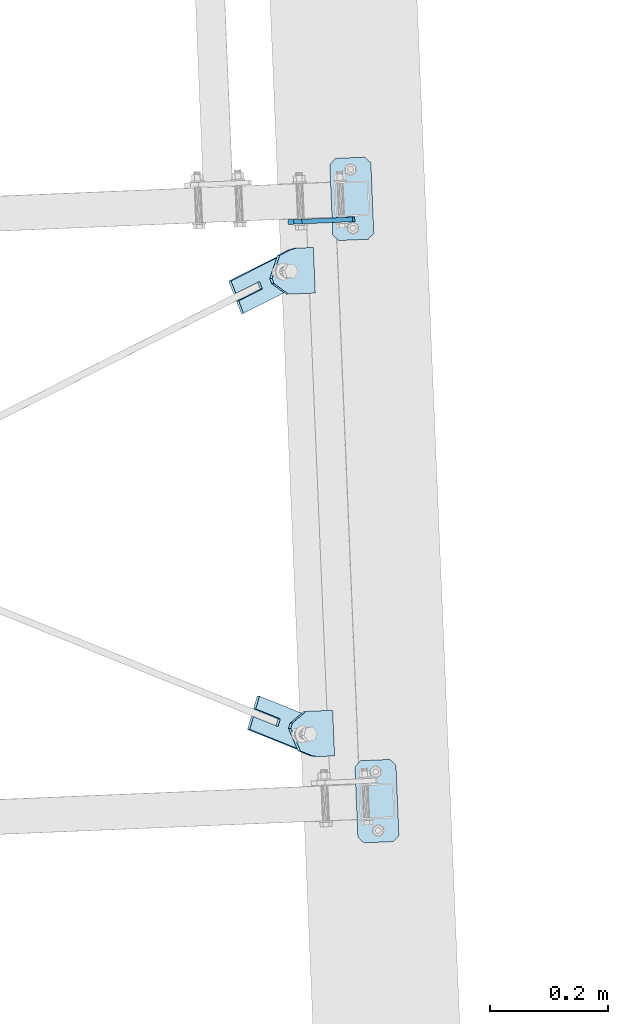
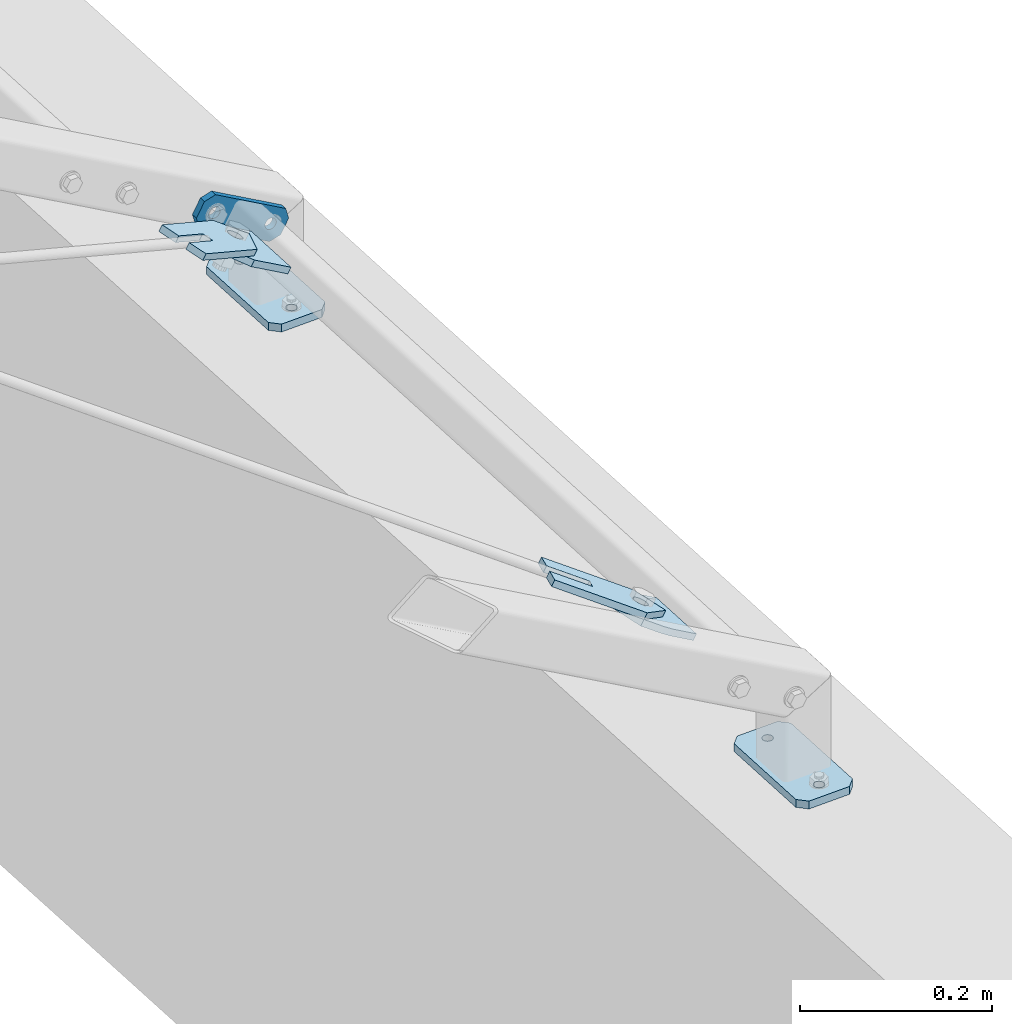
# One storey, part 50 of 288: 7 plates, 34 openings.
"""IFC2X3 building model written with IfcOpenShell, lengths in millimetres."""

import ifcopenshell
import ifcopenshell.guid

model = None  # the IFC model being written
_history = None  # IfcOwnerHistory: only IFC2X3 demands one
_inside = {}  # id of a spatial element -> (the spatial element, [elements in it])
_under = {}  # id of a project, library or spatial element -> (it, [spatial elements below it])
_declared = {}  # id of a project -> (the project, [libraries it declares])
_typed = {}  # id of a type object -> (the type object, [elements of that type])
_made_of = {}  # id of a material, layer set ... -> (it, [elements and type objects made of it])


def new_model(schema):
    """Start an empty IFC model of exactly this schema.

    Asked for "IFC4X3", IfcOpenShell would pick the latest addendum, in which some entities
    have other attributes; the version numbers below select the first issue.
    IFC2X3 requires an IfcOwnerHistory on every rooted entity: one is made here for all.
    """
    global model, _history
    if schema == "IFC4X3":
        model = ifcopenshell.file(schema_version=(4, 3, 0, 0))
    else:
        model = ifcopenshell.file(schema=schema)
    _inside.clear()
    _under.clear()
    _declared.clear()
    _typed.clear()
    _made_of.clear()
    _history = None
    if model.schema == "IFC2X3":
        org = make("IfcOrganization", Name="unknown")
        user = make(
            "IfcPersonAndOrganization",
            ThePerson=make("IfcPerson", FamilyName="unknown"),
            TheOrganization=org,
        )
        app = make(
            "IfcApplication",
            ApplicationDeveloper=org,
            Version="unknown",
            ApplicationFullName="unknown",
            ApplicationIdentifier="unknown",
        )
        _history = make(
            "IfcOwnerHistory",
            OwningUser=user,
            OwningApplication=app,
            ChangeAction="ADDED",
            CreationDate=0,
        )
    return model


def make(cls, **values):
    """One entity of the class cls with the attributes given. An attribute that is None is left unset."""
    return model.create_entity(
        cls, **{name: value for name, value in values.items() if value is not None}
    )


def entity(cls, *values):
    """Any entity or typed value of the class cls, its attributes in the order of the schema. None: left unset."""
    e = model.create_entity(cls)
    for i, value in enumerate(values):
        if value is not None:
            e[i] = value
    return e


def rooted(cls, **values):
    """An entity with a GlobalId (a new one), such as an element, a storey or a relation."""
    return make(cls, GlobalId=ifcopenshell.guid.new(), OwnerHistory=_history, **values)


def si_unit(unit_type, name, prefix=None):
    """IfcSIUnit, for example si_unit("LENGTHUNIT", "METRE", prefix="MILLI")."""
    return make("IfcSIUnit", UnitType=unit_type, Prefix=prefix, Name=name)


def converted_unit(unit_type, name, factor, base, dimensions=None, offset=None):
    """IfcConversionBasedUnit, such as the inch: factor (a typed value) times the base unit."""
    return make(
        "IfcConversionBasedUnit"
        if offset is None
        else "IfcConversionBasedUnitWithOffset",
        ConversionOffset=offset,
        Dimensions=None
        if dimensions is None
        else entity("IfcDimensionalExponents", *dimensions),
        UnitType=unit_type,
        Name=name,
        ConversionFactor=make(
            "IfcMeasureWithUnit", ValueComponent=factor, UnitComponent=base
        ),
    )


def assignment(units):
    """IfcUnitAssignment: the units of a project."""
    return None if units is None else make("IfcUnitAssignment", Units=units)


def point(xyz):
    """IfcCartesianPoint."""
    return None if xyz is None else make("IfcCartesianPoint", Coordinates=xyz)


def direction(xyz):
    """IfcDirection."""
    return None if xyz is None else make("IfcDirection", DirectionRatios=xyz)


def frame(location, z_axis=None, x_axis=None):
    """IfcAxis2Placement3D, a coordinate frame: its origin and axes. An axis left out is left unset."""
    return make(
        "IfcAxis2Placement3D",
        Location=point(location),
        Axis=direction(z_axis),
        RefDirection=direction(x_axis),
    )


def frame_2d(location, x_axis=None):
    """IfcAxis2Placement2D, a coordinate frame in the plane: its origin and x axis."""
    return make(
        "IfcAxis2Placement2D", Location=point(location), RefDirection=direction(x_axis)
    )


def origin():
    """The frame at (0, 0, 0) with its axes left unset."""
    return frame((0.0, 0.0, 0.0))


def origin_with_axes():
    """The frame at (0, 0, 0) with the z axis (0, 0, 1) and the x axis (1, 0, 0) written out."""
    return frame((0.0, 0.0, 0.0), z_axis=(0.0, 0.0, 1.0), x_axis=(1.0, 0.0, 0.0))


def origin_2d_with_axis():
    """The frame at (0, 0) in the plane with the x axis (1, 0) written out."""
    return frame_2d((0.0, 0.0), x_axis=(1.0, 0.0))


def place(relative_to, where):
    """IfcLocalPlacement: puts the frame where relative to a parent placement (None: the world)."""
    return make(
        "IfcLocalPlacement", PlacementRelTo=relative_to, RelativePlacement=where
    )


def context(
    kind, dimensions, precision=None, world=None, true_north=None, identifier=None
):
    """IfcGeometricRepresentationContext, for example the 3D "Model" context."""
    return make(
        "IfcGeometricRepresentationContext",
        ContextIdentifier=identifier,
        ContextType=kind,
        CoordinateSpaceDimension=dimensions,
        Precision=precision,
        WorldCoordinateSystem=world,
        TrueNorth=true_north,
    )


def project(units=None, contexts=None):
    """IfcProject with its units and contexts."""
    return rooted(
        "IfcProject",
        Name="project",
        RepresentationContexts=contexts,
        UnitsInContext=assignment(units),
    )


def spatial(cls, under=None, at=None, **own):
    """A site, building, storey or space (cls), placed at a placement, below another one or the project."""
    s = rooted(cls, ObjectPlacement=at, **own)
    if under is not None:
        _under.setdefault(under.id(), (under, []))[1].append(s)
    return s


def polyline(points):
    """IfcPolyline through the points."""
    return make("IfcPolyline", Points=[point(p) for p in points])


def circle_curve(where, radius):
    """IfcCircle in the frame where."""
    return make("IfcCircle", Position=where, Radius=radius)


def line_curve(start, along, magnitude):
    """IfcLine from a point along a vector."""
    return make(
        "IfcLine",
        Pnt=point(start),
        Dir=make("IfcVector", Orientation=direction(along), Magnitude=magnitude),
    )


def trimmed(basis, trim1, trim2, sense, master):
    """IfcTrimmedCurve: the piece of a basis curve between two trims."""
    return make(
        "IfcTrimmedCurve",
        BasisCurve=basis,
        Trim1=trim1,
        Trim2=trim2,
        SenseAgreement=sense,
        MasterRepresentation=master,
    )


def segment(curve, same_sense, transition):
    """IfcCompositeCurveSegment."""
    return make(
        "IfcCompositeCurveSegment",
        Transition=transition,
        SameSense=same_sense,
        ParentCurve=curve,
    )


def composite_curve(segments, self_intersect=None):
    """IfcCompositeCurve: segments joined end to end."""
    return make("IfcCompositeCurve", Segments=segments, SelfIntersect=self_intersect)


def profile(cls, at=None, kind="AREA", **sizes):
    """A parametric profile (cls). Its sizes go by their IFC names, for example OverallWidth=200.0."""
    return make(cls, ProfileType=kind, Position=at, **sizes)


def circle(**sizes):
    """IfcCircleProfileDef."""
    return profile("IfcCircleProfileDef", **sizes)


def outline(outer, holes=None, kind="AREA"):
    """IfcArbitraryClosedProfileDef: a profile drawn as a closed curve; with holes, ...WithVoids."""
    if holes is None:
        return make("IfcArbitraryClosedProfileDef", ProfileType=kind, OuterCurve=outer)
    return make(
        "IfcArbitraryProfileDefWithVoids",
        ProfileType=kind,
        OuterCurve=outer,
        InnerCurves=holes,
    )


def extrude(swept, where, along, depth):
    """IfcExtrudedAreaSolid: the profile swept, set in the frame where, extruded along a direction by depth."""
    return make(
        "IfcExtrudedAreaSolid",
        SweptArea=swept,
        Position=where,
        ExtrudedDirection=direction(along),
        Depth=depth,
    )


def shape(context_of_items, identifier, shape_type, items):
    """IfcShapeRepresentation: the items that make up one representation, for example the "Body"."""
    return make(
        "IfcShapeRepresentation",
        ContextOfItems=context_of_items,
        RepresentationIdentifier=identifier,
        RepresentationType=shape_type,
        Items=items,
    )


def material(Name=None, Category=None):
    """IfcMaterial."""
    return make("IfcMaterial", Name=Name, Category=Category)


def layer(
    of_material, thickness, ventilated=None, Name=None, Category=None, Priority=None
):
    """IfcMaterialLayer: one layer of a wall or slab, of a material (None: an air gap)."""
    return make(
        "IfcMaterialLayer",
        Material=of_material,
        LayerThickness=thickness,
        IsVentilated=ventilated,
        Name=Name,
        Category=Category,
        Priority=Priority,
    )


def layer_set(layers, Name=None):
    """IfcMaterialLayerSet."""
    return make("IfcMaterialLayerSet", MaterialLayers=layers, LayerSetName=Name)


def made_of(thing, what):
    """Note that an element or type object is made of a material, layer set ...; save() writes the relation."""
    if what is not None:
        _made_of.setdefault(what.id(), (what, []))[1].append(thing)
    return thing


def element(
    cls,
    number,
    at=None,
    inside=None,
    cuts=None,
    type_object=None,
    material=None,
    context=None,
    identifier="Body",
    shape_type=None,
    held_by="IfcProductDefinitionShape",
    body=None,
    shapes=None,
    **own,
):
    """One element of the class cls, such as IfcWall. Its Tag is "e" and its number.

    at: its placement. inside: the storey or other place that contains it. cuts: it is an
    opening in that element (IfcRelVoidsElement). A single representation is given by context,
    identifier, shape_type and body (its items); several are given by shapes. held_by: the class
    of the entity that holds the representations. save() writes the other relations.
    """
    e = rooted(cls, Tag="e%d" % number, ObjectPlacement=at, **own)
    if body is not None:
        shapes = [shape(context, identifier, shape_type, body)]
    if shapes is not None:
        e.Representation = make(held_by, Representations=shapes)
    if inside is not None:
        _inside.setdefault(inside.id(), (inside, []))[1].append(e)
    if cuts is not None:
        rooted(
            "IfcRelVoidsElement", RelatingBuildingElement=cuts, RelatedOpeningElement=e
        )
    if type_object is not None:
        _typed.setdefault(type_object.id(), (type_object, []))[1].append(e)
    return made_of(e, material)


def aggregate(whole, parts):
    """IfcRelAggregates: a whole, such as a stair, and the parts it consists of."""
    return rooted("IfcRelAggregates", RelatingObject=whole, RelatedObjects=parts)


def save(model, path):
    """Write the relations noted so far, then the file.

    IfcRelAggregates (storeys below a building ...), IfcRelContainedInSpatialStructure (elements
    in a storey), IfcRelDefinesByType, IfcRelAssociatesMaterial and IfcRelDeclares: one each for
    every whole, place, type object, material and project.
    """
    for whole, parts in _under.values():
        aggregate(whole, parts)
    for where, things in _inside.values():
        rooted(
            "IfcRelContainedInSpatialStructure",
            RelatedElements=things,
            RelatingStructure=where,
        )
    for kind, things in _typed.values():
        rooted("IfcRelDefinesByType", RelatedObjects=things, RelatingType=kind)
    for what, things in _made_of.values():
        rooted("IfcRelAssociatesMaterial", RelatedObjects=things, RelatingMaterial=what)
    for by, libraries in _declared.values():
        rooted("IfcRelDeclares", RelatingContext=by, RelatedDefinitions=libraries)
    model.write(path)


model = new_model("IFC2X3")

# Units and contexts
model_context = context("Model", 3, precision=1e-09, world=origin_with_axes())
ifc_project = project(units=[si_unit("LENGTHUNIT", "METRE", prefix="MILLI"), si_unit("AREAUNIT", "SQUARE_METRE"), si_unit("VOLUMEUNIT", "CUBIC_METRE"), converted_unit("PLANEANGLEUNIT", "DEGREE", entity("IfcPlaneAngleMeasure", 0.01745329), si_unit("PLANEANGLEUNIT", "RADIAN"), dimensions=[0, 0, 0, 0, 0, 0, 0])], contexts=[model_context])

# Site, building, storey
site_placement = place(None, origin_with_axes())
site = spatial("IfcSite", under=ifc_project, at=site_placement, Name="Remont ?wietlik?w nad MC w NCPP w Opolu", CompositionType="ELEMENT")
building_placement = place(site_placement, origin_with_axes())
building = spatial("IfcBuilding", under=site, at=building_placement, Name="Konstrukcja 1", CompositionType="ELEMENT")
storey_placement = place(building_placement, origin_with_axes())
storey = spatial("IfcBuildingStorey", under=building, at=storey_placement, Name="Default Storey", CompositionType="ELEMENT", Elevation=0.0)

# Plate, openings
ifc_material = material(Name="S235")
ifc_layer_1 = layer(ifc_material, 8.0)
ifc_layer_set_1 = layer_set([ifc_layer_1], Name="S235")
plate_1_placement = place(None, frame((1298.528527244, 11326.746724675, 149.81493075), z_axis=(-0.041662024, 0.999131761, 1.7472e-05), x_axis=(0.499566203, 0.020815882, 0.866025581)))
plate_1 = element("IfcPlate", 1, at=plate_1_placement, inside=storey, material=ifc_layer_set_1, Name="-", ObjectType="-", context=model_context, shape_type="SweptSolid", body=[
    extrude(outline(polyline([(0.0, 0.0), (40.0, 0.0), (40.0, 120.0), (0.0, 120.0), (0.0, 0.0)])), origin_with_axes(), (0.0, 0.0, 1.0), 8.0),
])
opening_1_placement = place(plate_1_placement, frame((0.0, 0.0, -0.01), z_axis=(0.0, 0.0, 1.0), x_axis=(1.0, 0.0, 0.0)))
element("IfcOpeningElement", 2, at=opening_1_placement, cuts=plate_1, ObjectType="Opening", context=model_context, shape_type="SweptSolid", body=[
    extrude(outline(composite_curve([segment(trimmed(line_curve((40.0, 0.0), (0.0, 1.0), 10.0), [point((40.0, 0.0))], [point((40.0, 10.0))], True, "CARTESIAN"), True, "CONTINUOUS"), segment(trimmed(circle_curve(frame_2d((30.0, 10.0), x_axis=(-1.0, 0.0)), 10.0), [point((40.0, 10.0))], [point((30.0, 0.0))], False, "CARTESIAN"), True, "CONTINUOUS"), segment(trimmed(line_curve((30.0, 0.0), (1.0, 0.0), 10.0), [point((30.0, 0.0))], [point((40.0, 0.0))], True, "CARTESIAN"), True, "CONTINUOUS")], self_intersect=False)), origin(), (0.0, 0.0, 1.0), 8.02),
])
opening_2_placement = place(plate_1_placement, frame((0.0, 0.0, -0.01), z_axis=(0.0, 0.0, 1.0), x_axis=(1.0, 0.0, 0.0)))
element("IfcOpeningElement", 3, at=opening_2_placement, cuts=plate_1, ObjectType="Opening", context=model_context, shape_type="SweptSolid", body=[
    extrude(outline(composite_curve([segment(trimmed(line_curve((0.0, 0.0), (1.0, 0.0), 10.0), [point((0.0, 0.0))], [point((10.0, 0.0))], True, "CARTESIAN"), True, "CONTINUOUS"), segment(trimmed(circle_curve(frame_2d((10.0, 10.0), x_axis=(-1.0, 0.0)), 10.0), [point((10.0, 0.0))], [point((0.0, 10.0))], False, "CARTESIAN"), True, "CONTINUOUS"), segment(trimmed(line_curve((0.0, 10.0), (0.0, -1.0), 10.0), [point((0.0, 10.0))], [point((0.0, 0.0))], True, "CARTESIAN"), True, "CONTINUOUS")], self_intersect=False)), origin(), (0.0, 0.0, 1.0), 8.02),
])
opening_3_placement = place(plate_1_placement, frame((0.0, 0.0, -0.01), z_axis=(0.0, 0.0, 1.0), x_axis=(1.0, 0.0, 0.0)))
element("IfcOpeningElement", 4, at=opening_3_placement, cuts=plate_1, ObjectType="Opening", context=model_context, shape_type="SweptSolid", body=[
    extrude(outline(composite_curve([segment(trimmed(line_curve((40.0, 120.0), (-1.0, 0.0), 10.0), [point((40.0, 120.0))], [point((30.0, 120.0))], True, "CARTESIAN"), True, "CONTINUOUS"), segment(trimmed(circle_curve(frame_2d((30.0, 110.0), x_axis=(-1.0, 0.0)), 10.0), [point((30.0, 120.0))], [point((40.0, 110.0))], False, "CARTESIAN"), True, "CONTINUOUS"), segment(trimmed(line_curve((40.0, 110.0), (0.0, 1.0), 10.0), [point((40.0, 110.0))], [point((40.0, 120.0))], True, "CARTESIAN"), True, "CONTINUOUS")], self_intersect=False)), origin(), (0.0, 0.0, 1.0), 8.02),
])
opening_4_placement = place(plate_1_placement, frame((0.0, 0.0, -0.01), z_axis=(0.0, 0.0, 1.0), x_axis=(1.0, 0.0, 0.0)))
element("IfcOpeningElement", 5, at=opening_4_placement, cuts=plate_1, ObjectType="Opening", context=model_context, shape_type="SweptSolid", body=[
    extrude(outline(composite_curve([segment(trimmed(line_curve((0.0, 120.0), (0.0, -1.0), 10.0), [point((0.0, 120.0))], [point((0.0, 110.0))], True, "CARTESIAN"), True, "CONTINUOUS"), segment(trimmed(circle_curve(frame_2d((10.0, 110.0), x_axis=(-1.0, 0.0)), 10.0), [point((0.0, 110.0))], [point((10.0, 120.0))], False, "CARTESIAN"), True, "CONTINUOUS"), segment(trimmed(line_curve((10.0, 120.0), (-1.0, 0.0), 10.0), [point((10.0, 120.0))], [point((0.0, 120.0))], True, "CARTESIAN"), True, "CONTINUOUS")], self_intersect=False)), origin(), (0.0, 0.0, 1.0), 8.02),
])
opening_5_placement = place(plate_1_placement, frame((19.99982953, 27.001003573, 8.499903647), z_axis=(-2.0054e-05, 4.2e-07, 1.0), x_axis=(1.0, 0.0, 2.0054e-05)))
element("IfcOpeningElement", 6, at=opening_5_placement, cuts=plate_1, ObjectType="Opening", context=model_context, shape_type="SweptSolid", body=[
    extrude(circle(Radius=7.001, at=frame_2d((-4e-09, -7.001), x_axis=(1.0, 0.0))), origin(), (0.0, 0.0, -1.0), 9.000033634),
])
opening_6_placement = place(plate_1_placement, frame((19.999829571, 107.001003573, 8.499870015), z_axis=(-2.0054e-05, 4.2e-07, 1.0), x_axis=(1.0, 0.0, 2.0054e-05)))
element("IfcOpeningElement", 7, at=opening_6_placement, cuts=plate_1, ObjectType="Opening", context=model_context, shape_type="SweptSolid", body=[
    extrude(circle(Radius=7.001, at=frame_2d((-4e-09, -7.001), x_axis=(1.0, 0.0))), origin(), (0.0, 0.0, -1.0), 9.000033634),
])

ifc_layer_2 = layer(ifc_material, 10.0)
ifc_layer_set_2 = layer_set([ifc_layer_2], Name="S235")
plate_2_placement = place(None, frame((1374.265429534, 11439.000886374, 10.000000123), z_axis=(0.0, 0.0, -1.0), x_axis=(0.999131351, 0.041671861, 0.0)))
plate_2 = element("IfcPlate", 8, at=plate_2_placement, inside=storey, material=ifc_layer_set_2, Name="Baseplate", ObjectType="Baseplate", context=model_context, shape_type="SweptSolid", body=[
    extrude(outline(polyline([(0.0, 0.0), (70.0, 0.0), (70.0, 140.0), (0.0, 140.0), (0.0, 0.0)])), origin_with_axes(), (0.0, 0.0, 1.0), 10.0),
])
opening_7_placement = place(plate_2_placement, frame((0.0, 0.0, -0.01), z_axis=(0.0, 0.0, 1.0), x_axis=(1.0, 0.0, 0.0)))
element("IfcOpeningElement", 9, at=opening_7_placement, cuts=plate_2, ObjectType="Opening", context=model_context, shape_type="SweptSolid", body=[
    extrude(outline(composite_curve([segment(trimmed(line_curve((0.0, 140.0), (0.0, -1.0), 10.0), [point((0.0, 140.0))], [point((0.0, 130.0))], True, "CARTESIAN"), True, "CONTINUOUS"), segment(trimmed(circle_curve(frame_2d((10.0, 130.0), x_axis=(-1.0, 0.0)), 10.0), [point((0.0, 130.0))], [point((10.0, 140.0))], False, "CARTESIAN"), True, "CONTINUOUS"), segment(trimmed(line_curve((10.0, 140.0), (-1.0, 0.0), 10.0), [point((10.0, 140.0))], [point((0.0, 140.0))], True, "CARTESIAN"), True, "CONTINUOUS")], self_intersect=False)), origin(), (0.0, 0.0, 1.0), 10.02),
])
opening_8_placement = place(plate_2_placement, frame((0.0, 0.0, -0.01), z_axis=(0.0, 0.0, 1.0), x_axis=(1.0, 0.0, 0.0)))
element("IfcOpeningElement", 10, at=opening_8_placement, cuts=plate_2, ObjectType="Opening", context=model_context, shape_type="SweptSolid", body=[
    extrude(outline(composite_curve([segment(trimmed(line_curve((70.0, 140.0), (-1.0, 0.0), 10.0), [point((70.0, 140.0))], [point((60.0, 140.0))], True, "CARTESIAN"), True, "CONTINUOUS"), segment(trimmed(circle_curve(frame_2d((60.0, 130.0), x_axis=(-1.0, 0.0)), 10.0), [point((60.0, 140.0))], [point((70.0, 130.0))], False, "CARTESIAN"), True, "CONTINUOUS"), segment(trimmed(line_curve((70.0, 130.0), (0.0, 1.0), 10.0), [point((70.0, 130.0))], [point((70.0, 140.0))], True, "CARTESIAN"), True, "CONTINUOUS")], self_intersect=False)), origin(), (0.0, 0.0, 1.0), 10.02),
])
opening_9_placement = place(plate_2_placement, frame((0.0, 0.0, -0.01), z_axis=(0.0, 0.0, 1.0), x_axis=(1.0, 0.0, 0.0)))
element("IfcOpeningElement", 11, at=opening_9_placement, cuts=plate_2, ObjectType="Opening", context=model_context, shape_type="SweptSolid", body=[
    extrude(outline(composite_curve([segment(trimmed(line_curve((0.0, 0.0), (1.0, 0.0), 10.0), [point((0.0, 0.0))], [point((10.0, 0.0))], True, "CARTESIAN"), True, "CONTINUOUS"), segment(trimmed(circle_curve(frame_2d((10.0, 10.0), x_axis=(-1.0, 0.0)), 10.0), [point((10.0, 0.0))], [point((0.0, 10.0))], False, "CARTESIAN"), True, "CONTINUOUS"), segment(trimmed(line_curve((0.0, 10.0), (0.0, -1.0), 10.0), [point((0.0, 10.0))], [point((0.0, 0.0))], True, "CARTESIAN"), True, "CONTINUOUS")], self_intersect=False)), origin(), (0.0, 0.0, 1.0), 10.02),
])
opening_10_placement = place(plate_2_placement, frame((0.0, 0.0, -0.01), z_axis=(0.0, 0.0, 1.0), x_axis=(1.0, 0.0, 0.0)))
element("IfcOpeningElement", 12, at=opening_10_placement, cuts=plate_2, ObjectType="Opening", context=model_context, shape_type="SweptSolid", body=[
    extrude(outline(composite_curve([segment(trimmed(line_curve((70.0, 0.0), (0.0, 1.0), 10.0), [point((70.0, 0.0))], [point((70.0, 10.0))], True, "CARTESIAN"), True, "CONTINUOUS"), segment(trimmed(circle_curve(frame_2d((60.0, 10.0), x_axis=(-1.0, 0.0)), 10.0), [point((70.0, 10.0))], [point((60.0, 0.0))], False, "CARTESIAN"), True, "CONTINUOUS"), segment(trimmed(line_curve((60.0, 0.0), (1.0, 0.0), 10.0), [point((60.0, 0.0))], [point((70.0, 0.0))], True, "CARTESIAN"), True, "CONTINUOUS")], self_intersect=False)), origin(), (0.0, 0.0, 1.0), 10.02),
])
opening_11_placement = place(plate_2_placement, frame((35.0, 20.0, 10.5), z_axis=(0.0, 0.0, -1.0), x_axis=(1.0, 0.0, 0.0)))
element("IfcOpeningElement", 13, at=opening_11_placement, cuts=plate_2, ObjectType="Opening", context=model_context, shape_type="SweptSolid", body=[
    extrude(circle(Radius=6.001, at=origin_2d_with_axis()), origin(), (0.0, 0.0, 1.0), 11.0),
])
opening_12_placement = place(plate_2_placement, frame((35.0, 120.0, 10.5), z_axis=(0.0, 0.0, -1.0), x_axis=(1.0, 0.0, 0.0)))
element("IfcOpeningElement", 14, at=opening_12_placement, cuts=plate_2, ObjectType="Opening", context=model_context, shape_type="SweptSolid", body=[
    extrude(circle(Radius=6.001, at=origin_2d_with_axis()), origin(), (0.0, 0.0, 1.0), 11.0),
])

plate_3_placement = place(None, frame((1417.013892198, 10414.056759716, 10.000000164), z_axis=(0.0, 0.0, -1.0), x_axis=(0.999131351, 0.041671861, 0.0)))
plate_3 = element("IfcPlate", 15, at=plate_3_placement, inside=storey, material=ifc_layer_set_2, Name="Baseplate", ObjectType="Baseplate", context=model_context, shape_type="SweptSolid", body=[
    extrude(outline(polyline([(0.0, 0.0), (70.0, 0.0), (70.0, 140.0), (0.0, 140.0), (0.0, 0.0)])), origin_with_axes(), (0.0, 0.0, 1.0), 10.0),
])
opening_13_placement = place(plate_3_placement, frame((0.0, 0.0, -0.01), z_axis=(0.0, 0.0, 1.0), x_axis=(1.0, 0.0, 0.0)))
element("IfcOpeningElement", 16, at=opening_13_placement, cuts=plate_3, ObjectType="Opening", context=model_context, shape_type="SweptSolid", body=[
    extrude(outline(composite_curve([segment(trimmed(line_curve((0.0, 140.0), (0.0, -1.0), 10.0), [point((0.0, 140.0))], [point((0.0, 130.0))], True, "CARTESIAN"), True, "CONTINUOUS"), segment(trimmed(circle_curve(frame_2d((10.0, 130.0), x_axis=(-1.0, 0.0)), 10.0), [point((0.0, 130.0))], [point((10.0, 140.0))], False, "CARTESIAN"), True, "CONTINUOUS"), segment(trimmed(line_curve((10.0, 140.0), (-1.0, 0.0), 10.0), [point((10.0, 140.0))], [point((0.0, 140.0))], True, "CARTESIAN"), True, "CONTINUOUS")], self_intersect=False)), origin(), (0.0, 0.0, 1.0), 10.02),
])
opening_14_placement = place(plate_3_placement, frame((0.0, 0.0, -0.01), z_axis=(0.0, 0.0, 1.0), x_axis=(1.0, 0.0, 0.0)))
element("IfcOpeningElement", 17, at=opening_14_placement, cuts=plate_3, ObjectType="Opening", context=model_context, shape_type="SweptSolid", body=[
    extrude(outline(composite_curve([segment(trimmed(line_curve((70.0, 140.0), (-1.0, 0.0), 10.0), [point((70.0, 140.0))], [point((60.0, 140.0))], True, "CARTESIAN"), True, "CONTINUOUS"), segment(trimmed(circle_curve(frame_2d((60.0, 130.0), x_axis=(-1.0, 0.0)), 10.0), [point((60.0, 140.0))], [point((70.0, 130.0))], False, "CARTESIAN"), True, "CONTINUOUS"), segment(trimmed(line_curve((70.0, 130.0), (0.0, 1.0), 10.0), [point((70.0, 130.0))], [point((70.0, 140.0))], True, "CARTESIAN"), True, "CONTINUOUS")], self_intersect=False)), origin(), (0.0, 0.0, 1.0), 10.02),
])
opening_15_placement = place(plate_3_placement, frame((0.0, 0.0, -0.01), z_axis=(0.0, 0.0, 1.0), x_axis=(1.0, 0.0, 0.0)))
element("IfcOpeningElement", 18, at=opening_15_placement, cuts=plate_3, ObjectType="Opening", context=model_context, shape_type="SweptSolid", body=[
    extrude(outline(composite_curve([segment(trimmed(line_curve((0.0, 0.0), (1.0, 0.0), 10.0), [point((0.0, 0.0))], [point((10.0, 0.0))], True, "CARTESIAN"), True, "CONTINUOUS"), segment(trimmed(circle_curve(frame_2d((10.0, 10.0), x_axis=(-1.0, 0.0)), 10.0), [point((10.0, 0.0))], [point((0.0, 10.0))], False, "CARTESIAN"), True, "CONTINUOUS"), segment(trimmed(line_curve((0.0, 10.0), (0.0, -1.0), 10.0), [point((0.0, 10.0))], [point((0.0, 0.0))], True, "CARTESIAN"), True, "CONTINUOUS")], self_intersect=False)), origin(), (0.0, 0.0, 1.0), 10.02),
])
opening_16_placement = place(plate_3_placement, frame((0.0, 0.0, -0.01), z_axis=(0.0, 0.0, 1.0), x_axis=(1.0, 0.0, 0.0)))
element("IfcOpeningElement", 19, at=opening_16_placement, cuts=plate_3, ObjectType="Opening", context=model_context, shape_type="SweptSolid", body=[
    extrude(outline(composite_curve([segment(trimmed(line_curve((70.0, 0.0), (0.0, 1.0), 10.0), [point((70.0, 0.0))], [point((70.0, 10.0))], True, "CARTESIAN"), True, "CONTINUOUS"), segment(trimmed(circle_curve(frame_2d((60.0, 10.0), x_axis=(-1.0, 0.0)), 10.0), [point((70.0, 10.0))], [point((60.0, 0.0))], False, "CARTESIAN"), True, "CONTINUOUS"), segment(trimmed(line_curve((60.0, 0.0), (1.0, 0.0), 10.0), [point((60.0, 0.0))], [point((70.0, 0.0))], True, "CARTESIAN"), True, "CONTINUOUS")], self_intersect=False)), origin(), (0.0, 0.0, 1.0), 10.02),
])
opening_17_placement = place(plate_3_placement, frame((35.0, 120.0, 10.5), z_axis=(0.0, 0.0, -1.0), x_axis=(1.0, 0.0, 0.0)))
element("IfcOpeningElement", 20, at=opening_17_placement, cuts=plate_3, ObjectType="Opening", context=model_context, shape_type="SweptSolid", body=[
    extrude(circle(Radius=6.001, at=origin_2d_with_axis()), origin(), (0.0, 0.0, 1.0), 11.0),
])
opening_18_placement = place(plate_3_placement, frame((35.0, 20.0, 10.5), z_axis=(0.0, 0.0, -1.0), x_axis=(1.0, 0.0, 0.0)))
element("IfcOpeningElement", 21, at=opening_18_placement, cuts=plate_3, ObjectType="Opening", context=model_context, shape_type="SweptSolid", body=[
    extrude(circle(Radius=6.001, at=origin_2d_with_axis()), origin(), (0.0, 0.0, 1.0), 11.0),
])

plate_4_placement = place(None, frame((1238.465567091, 10467.67700655, 242.278857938), z_axis=(-0.500767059, -0.020865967, -0.865330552), x_axis=(0.277016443, 0.943267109, -0.183054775)))
plate_4 = element("IfcPlate", 22, at=plate_4_placement, inside=storey, material=ifc_layer_set_1, Name="Tab_Plate#2", ObjectType="Tab_Plate#2", context=model_context, shape_type="SweptSolid", body=[
    extrude(outline(polyline([(0.0, 0.0), (60.0, 0.0), (60.0, 140.0), (0.0, 140.0), (0.0, 0.0)])), origin_with_axes(), (0.0, 0.0, 1.0), 8.0),
])
opening_19_placement = place(plate_4_placement, frame((0.0, 0.0, -0.01), z_axis=(0.0, 0.0, 1.0), x_axis=(1.0, 0.0, 0.0)))
element("IfcOpeningElement", 23, at=opening_19_placement, cuts=plate_4, ObjectType="Opening", context=model_context, shape_type="SweptSolid", body=[
    extrude(outline(composite_curve([segment(trimmed(line_curve((60.0, 140.0), (-1.0, 0.0), 30.0), [point((60.0, 140.0))], [point((30.0, 140.0))], True, "CARTESIAN"), True, "CONTINUOUS"), segment(trimmed(circle_curve(frame_2d((30.0, 110.0), x_axis=(-1.0, 0.0)), 30.0), [point((30.0, 140.0))], [point((60.0, 110.0))], False, "CARTESIAN"), True, "CONTINUOUS"), segment(trimmed(line_curve((60.0, 110.0), (0.0, 1.0), 30.0), [point((60.0, 110.0))], [point((60.0, 140.0))], True, "CARTESIAN"), True, "CONTINUOUS")], self_intersect=False)), origin(), (0.0, 0.0, 1.0), 8.02),
])
opening_20_placement = place(plate_4_placement, frame((0.0, 0.0, -0.01), z_axis=(0.0, 0.0, 1.0), x_axis=(1.0, 0.0, 0.0)))
element("IfcOpeningElement", 24, at=opening_20_placement, cuts=plate_4, ObjectType="Opening", context=model_context, shape_type="SweptSolid", body=[
    extrude(outline(composite_curve([segment(trimmed(line_curve((0.0, 140.0), (0.0, -1.0), 30.0), [point((0.0, 140.0))], [point((0.0, 110.0))], True, "CARTESIAN"), True, "CONTINUOUS"), segment(trimmed(circle_curve(frame_2d((30.0, 110.0), x_axis=(-1.0, 0.0)), 30.0), [point((0.0, 110.0))], [point((30.0, 140.0))], False, "CARTESIAN"), True, "CONTINUOUS"), segment(trimmed(line_curve((30.0, 140.0), (-1.0, 0.0), 30.0), [point((30.0, 140.0))], [point((0.0, 140.0))], True, "CARTESIAN"), True, "CONTINUOUS")], self_intersect=False)), origin(), (0.0, 0.0, 1.0), 8.02),
])
opening_21_placement = place(plate_4_placement, frame((0.0, -6e-09, 8.1), z_axis=(0.0, 0.0, -1.0), x_axis=(0.930916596, -0.365231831, 0.0)))
element("IfcOpeningElement", 25, at=opening_21_placement, cuts=plate_4, ObjectType="Opening", context=model_context, shape_type="SweptSolid", body=[
    extrude(outline(polyline([(2.782962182, -55.877644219), (15.817656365, -60.991620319), (34.445210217, -13.513012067), (21.410516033, -8.399035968), (2.782962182, -55.877644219)])), origin(), (0.0, 0.0, 1.0), 8.200000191),
])
opening_22_placement = place(plate_4_placement, frame((30.0, 110.000000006, 8.49999999), z_axis=(0.0, 0.0, -1.0), x_axis=(0.0, -1.0, 0.0)))
element("IfcOpeningElement", 26, at=opening_22_placement, cuts=plate_4, ObjectType="Opening", context=model_context, shape_type="SweptSolid", body=[
    extrude(circle(Radius=9.001, at=origin_2d_with_axis()), origin(), (0.0, 0.0, 1.0), 9.0),
])

plate_5_placement = place(None, frame((1312.678877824, 10497.428890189, 180.124132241), z_axis=(0.500767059, 0.020865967, 0.865330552), x_axis=(-0.277016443, -0.943267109, 0.183054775)))
plate_5 = element("IfcPlate", 27, at=plate_5_placement, inside=storey, material=ifc_layer_set_1, Name="Gusset#2", ObjectType="Gusset#2", context=model_context, shape_type="SweptSolid", body=[
    extrude(outline(polyline([(0.0, 0.0), (60.0, 0.0), (60.0, 60.0), (45.794653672, 96.203407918), (-26.601822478, 67.796772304), (0.0, 0.0)])), origin_with_axes(), (0.0, 0.0, 1.0), 8.0),
])
opening_23_placement = place(plate_5_placement, frame((30.0, 30.000000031, -0.499999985), z_axis=(0.0, 0.0, 1.0), x_axis=(0.0, -1.0, 0.0)))
element("IfcOpeningElement", 28, at=opening_23_placement, cuts=plate_5, ObjectType="Opening", context=model_context, shape_type="SweptSolid", body=[
    extrude(circle(Radius=9.001, at=origin_2d_with_axis()), origin(), (0.0, 0.0, 1.0), 9.0),
])
opening_24_placement = place(plate_5_placement, frame((0.0, 0.0, -0.01), z_axis=(0.0, 0.0, 1.0), x_axis=(1.0, 0.0, 0.0)))
element("IfcOpeningElement", 29, at=opening_24_placement, cuts=plate_5, ObjectType="Opening", context=model_context, shape_type="SweptSolid", body=[
    extrude(outline(composite_curve([segment(trimmed(line_curve((60.0, 0.0), (0.0, 1.0), 30.0), [point((60.0, 0.0))], [point((60.0, 30.0))], True, "CARTESIAN"), True, "CONTINUOUS"), segment(trimmed(circle_curve(frame_2d((30.0, 30.0), x_axis=(-1.0, 0.0)), 30.0), [point((60.0, 30.0))], [point((30.0, 0.0))], False, "CARTESIAN"), True, "CONTINUOUS"), segment(trimmed(line_curve((30.0, 0.0), (1.0, 0.0), 30.0), [point((30.0, 0.0))], [point((60.0, 0.0))], True, "CARTESIAN"), True, "CONTINUOUS")], self_intersect=False)), origin(), (0.0, 0.0, 1.0), 8.02),
])
opening_25_placement = place(plate_5_placement, frame((0.0, 0.0, -0.01), z_axis=(0.0, 0.0, 1.0), x_axis=(1.0, 0.0, 0.0)))
element("IfcOpeningElement", 30, at=opening_25_placement, cuts=plate_5, ObjectType="Opening", context=model_context, shape_type="SweptSolid", body=[
    extrude(outline(composite_curve([segment(trimmed(line_curve((0.0, 0.0), (1.0, 0.0), 20.455465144), [point((0.0, 0.0))], [point((20.455465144, 0.0))], True, "CARTESIAN"), True, "CONTINUOUS"), segment(trimmed(circle_curve(frame_2d((20.455465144, 30.0), x_axis=(-1.0, 0.0)), 30.0), [point((20.455465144, 0.0))], [point((-7.471650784, 19.042071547))], False, "CARTESIAN"), True, "CONTINUOUS"), segment(trimmed(line_curve((-7.471650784, 19.042071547), (0.365264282, -0.930903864), 20.455465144), [point((-7.471650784, 19.042071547))], [point((0.0, 0.0))], True, "CARTESIAN"), True, "CONTINUOUS")], self_intersect=False)), origin(), (0.0, 0.0, 1.0), 8.02),
])
opening_26_placement = place(plate_5_placement, frame((0.0, 0.0, -0.01), z_axis=(0.0, 0.0, 1.0), x_axis=(1.0, 0.0, 0.0)))
element("IfcOpeningElement", 31, at=opening_26_placement, cuts=plate_5, ObjectType="Opening", context=model_context, shape_type="SweptSolid", body=[
    extrude(outline(composite_curve([segment(trimmed(line_curve((60.0, 60.0), (-0.365264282, 0.930903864), 5.675025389), [point((60.0, 60.0))], [point((57.927115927, 65.282903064))], True, "CARTESIAN"), True, "CONTINUOUS"), segment(trimmed(circle_curve(frame_2d((30.0, 54.324974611), x_axis=(-1.0, 0.0)), 30.0), [point((57.927115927, 65.282903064))], [point((60.0, 54.324974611))], False, "CARTESIAN"), True, "CONTINUOUS"), segment(trimmed(line_curve((60.0, 54.324974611), (0.0, 1.0), 5.675025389), [point((60.0, 54.324974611))], [point((60.0, 60.0))], True, "CARTESIAN"), True, "CONTINUOUS")], self_intersect=False)), origin(), (0.0, 0.0, 1.0), 8.02),
])

plate_6_placement = place(None, frame((1202.637707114, 11230.653426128, 235.369559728), z_axis=(0.500767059, 0.020865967, 0.865330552), x_axis=(0.354583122, -0.916924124, -0.183087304)))
plate_6 = element("IfcPlate", 32, at=plate_6_placement, inside=storey, material=ifc_layer_set_1, Name="Tab_Plate#2", ObjectType="Tab_Plate#2", context=model_context, shape_type="SweptSolid", body=[
    extrude(outline(polyline([(0.0, 0.0), (60.0, 0.0), (60.0, 140.0), (0.0, 140.0), (0.0, 0.0)])), origin_with_axes(), (0.0, 0.0, 1.0), 8.0),
])
opening_27_placement = place(plate_6_placement, frame((0.0, 0.0, -0.01), z_axis=(0.0, 0.0, 1.0), x_axis=(1.0, 0.0, 0.0)))
element("IfcOpeningElement", 33, at=opening_27_placement, cuts=plate_6, ObjectType="Opening", context=model_context, shape_type="SweptSolid", body=[
    extrude(outline(composite_curve([segment(trimmed(line_curve((60.0, 140.0), (-1.0, 0.0), 30.0), [point((60.0, 140.0))], [point((30.0, 140.0))], True, "CARTESIAN"), True, "CONTINUOUS"), segment(trimmed(circle_curve(frame_2d((30.0, 110.0), x_axis=(-1.0, 0.0)), 30.0), [point((30.0, 140.0))], [point((60.0, 110.0))], False, "CARTESIAN"), True, "CONTINUOUS"), segment(trimmed(line_curve((60.0, 110.0), (0.0, 1.0), 30.0), [point((60.0, 110.0))], [point((60.0, 140.0))], True, "CARTESIAN"), True, "CONTINUOUS")], self_intersect=False)), origin(), (0.0, 0.0, 1.0), 8.02),
])
opening_28_placement = place(plate_6_placement, frame((0.0, 0.0, -0.01), z_axis=(0.0, 0.0, 1.0), x_axis=(1.0, 0.0, 0.0)))
element("IfcOpeningElement", 34, at=opening_28_placement, cuts=plate_6, ObjectType="Opening", context=model_context, shape_type="SweptSolid", body=[
    extrude(outline(composite_curve([segment(trimmed(line_curve((0.0, 140.0), (0.0, -1.0), 30.0), [point((0.0, 140.0))], [point((0.0, 110.0))], True, "CARTESIAN"), True, "CONTINUOUS"), segment(trimmed(circle_curve(frame_2d((30.0, 110.0), x_axis=(-1.0, 0.0)), 30.0), [point((0.0, 110.0))], [point((30.0, 140.0))], False, "CARTESIAN"), True, "CONTINUOUS"), segment(trimmed(line_curve((30.0, 140.0), (-1.0, 0.0), 30.0), [point((30.0, 140.0))], [point((0.0, 140.0))], True, "CARTESIAN"), True, "CONTINUOUS")], self_intersect=False)), origin(), (0.0, 0.0, 1.0), 8.02),
])
opening_29_placement = place(plate_6_placement, frame((0.0, -6e-09, 8.1), z_axis=(0.0, 0.0, -1.0), x_axis=(0.93089113, -0.365296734, 0.0)))
element("IfcOpeningElement", 35, at=opening_29_placement, cuts=plate_6, ObjectType="Opening", context=model_context, shape_type="SweptSolid", body=[
    extrude(outline(polyline([(2.779066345, -55.877838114), (15.813403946, -60.992722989), (34.444267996, -13.51541358), (21.409930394, -8.400528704), (2.779066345, -55.877838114)])), origin(), (0.0, 0.0, 1.0), 8.200000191),
])
opening_30_placement = place(plate_6_placement, frame((30.0, 119.000999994, -0.500000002), z_axis=(0.0, 0.0, -1.0), x_axis=(-1.0, 0.0, 0.0)))
element("IfcOpeningElement", 36, at=opening_30_placement, cuts=plate_6, ObjectType="Opening", context=model_context, shape_type="SweptSolid", body=[
    extrude(circle(Radius=9.001, at=frame_2d((0.0, -9.001), x_axis=(1.0, 0.0))), origin(), (0.0, 0.0, -1.0), 9.0),
])

plate_7_placement = place(None, frame((1287.082467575, 11207.519234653, 187.059192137), z_axis=(-0.500767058, -0.020865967, -0.865330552), x_axis=(-0.354583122, 0.916924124, 0.183087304)))
plate_7 = element("IfcPlate", 37, at=plate_7_placement, inside=storey, material=ifc_layer_set_1, Name="Gusset#2", ObjectType="Gusset#2", context=model_context, shape_type="SweptSolid", body=[
    extrude(outline(polyline([(0.0, 0.0), (60.0, 0.0), (60.0, 60.0), (45.794653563, 96.203407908), (-26.601822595, 67.796772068), (0.0, 0.0)])), origin_with_axes(), (0.0, 0.0, 1.0), 8.0),
])
opening_31_placement = place(plate_7_placement, frame((30.0, 39.000999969, 8.500000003), z_axis=(0.0, 0.0, 1.0), x_axis=(1.0, 0.0, 0.0)))
element("IfcOpeningElement", 38, at=opening_31_placement, cuts=plate_7, ObjectType="Opening", context=model_context, shape_type="SweptSolid", body=[
    extrude(circle(Radius=9.001, at=frame_2d((0.0, -9.001), x_axis=(1.0, 0.0))), origin(), (0.0, 0.0, -1.0), 9.0),
])
opening_32_placement = place(plate_7_placement, frame((0.0, 0.0, -0.01), z_axis=(0.0, 0.0, 1.0), x_axis=(1.0, 0.0, 0.0)))
element("IfcOpeningElement", 39, at=opening_32_placement, cuts=plate_7, ObjectType="Opening", context=model_context, shape_type="SweptSolid", body=[
    extrude(outline(composite_curve([segment(trimmed(line_curve((60.0, 60.0), (-0.365264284, 0.930903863), 5.67502543), [point((60.0, 60.0))], [point((57.927115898, 65.282903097))], True, "CARTESIAN"), True, "CONTINUOUS"), segment(trimmed(circle_curve(frame_2d((30.0, 54.32497457), x_axis=(-1.0, 0.0)), 30.0), [point((57.927115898, 65.282903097))], [point((60.0, 54.32497457))], False, "CARTESIAN"), True, "CONTINUOUS"), segment(trimmed(line_curve((60.0, 54.32497457), (0.0, 1.0), 5.67502543), [point((60.0, 54.32497457))], [point((60.0, 60.0))], True, "CARTESIAN"), True, "CONTINUOUS")], self_intersect=False)), origin(), (0.0, 0.0, 1.0), 8.02),
])
opening_33_placement = place(plate_7_placement, frame((0.0, 0.0, -0.01), z_axis=(0.0, 0.0, 1.0), x_axis=(1.0, 0.0, 0.0)))
element("IfcOpeningElement", 40, at=opening_33_placement, cuts=plate_7, ObjectType="Opening", context=model_context, shape_type="SweptSolid", body=[
    extrude(outline(composite_curve([segment(trimmed(line_curve((60.0, 0.0), (0.0, 1.0), 30.0), [point((60.0, 0.0))], [point((60.0, 30.0))], True, "CARTESIAN"), True, "CONTINUOUS"), segment(trimmed(circle_curve(frame_2d((30.0, 30.0), x_axis=(-1.0, 0.0)), 30.0), [point((60.0, 30.0))], [point((30.0, 0.0))], False, "CARTESIAN"), True, "CONTINUOUS"), segment(trimmed(line_curve((30.0, 0.0), (1.0, 0.0), 30.0), [point((30.0, 0.0))], [point((60.0, 0.0))], True, "CARTESIAN"), True, "CONTINUOUS")], self_intersect=False)), origin(), (0.0, 0.0, 1.0), 8.02),
])
opening_34_placement = place(plate_7_placement, frame((0.0, 0.0, -0.01), z_axis=(0.0, 0.0, 1.0), x_axis=(1.0, 0.0, 0.0)))
element("IfcOpeningElement", 41, at=opening_34_placement, cuts=plate_7, ObjectType="Opening", context=model_context, shape_type="SweptSolid", body=[
    extrude(outline(composite_curve([segment(trimmed(line_curve((0.0, 0.0), (1.0, 0.0), 20.455465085), [point((0.0, 0.0))], [point((20.455465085, 0.0))], True, "CARTESIAN"), True, "CONTINUOUS"), segment(trimmed(circle_curve(frame_2d((20.455465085, 30.0), x_axis=(-1.0, 0.0)), 30.0), [point((20.455465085, 0.0))], [point((-7.471650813, 19.042071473))], False, "CARTESIAN"), True, "CONTINUOUS"), segment(trimmed(line_curve((-7.471650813, 19.042071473), (0.365264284, -0.930903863), 20.455465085), [point((-7.471650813, 19.042071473))], [point((0.0, 0.0))], True, "CARTESIAN"), True, "CONTINUOUS")], self_intersect=False)), origin(), (0.0, 0.0, 1.0), 8.02),
])

save(model, "model.ifc")
